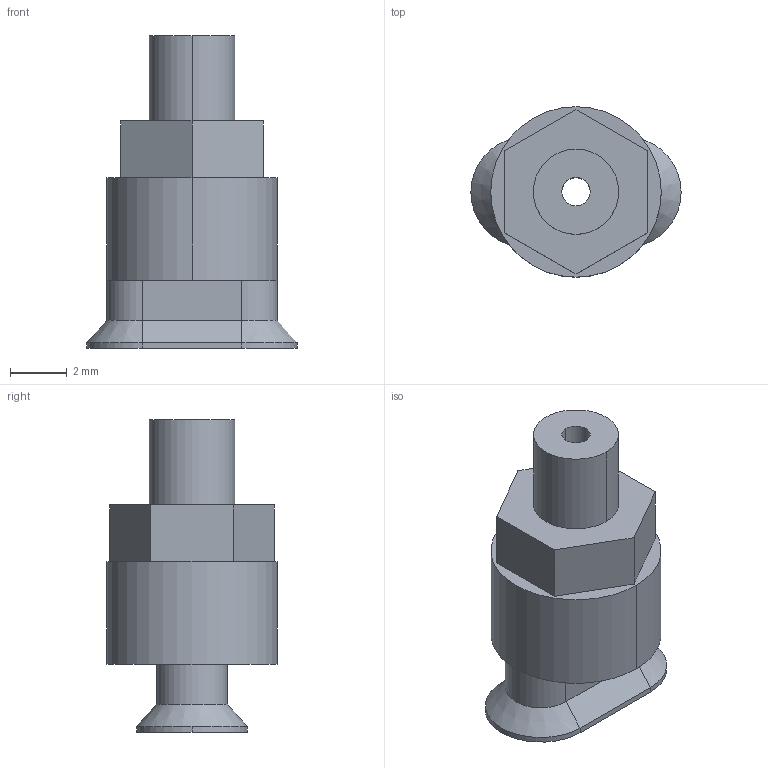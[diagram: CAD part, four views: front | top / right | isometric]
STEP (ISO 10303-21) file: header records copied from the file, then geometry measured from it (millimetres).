
FILE_DESCRIPTION(('STEP AP214'),'1');
FILE_NAME('10_01_05_00405.stp','2021-01-28T16:52:21',('TraceParts'),('TraceParts S.A.'),'Spatial InterOp 3D',' ',' ');
FILE_SCHEMA(('AUTOMOTIVE_DESIGN { 1 0 10303 214 1 1 1 1 }'));
Length unit declared in the file: millimetre
Products named in the file (1): 10_01_05_00405
Bounding box: 7.4 x 6 x 11 mm (x, y, z)
Volume: 185.8 mm3; surface area: 299.3 mm2
Topology: 1 solids, 2 shells, 52 faces, 120 edges, 76 vertices
Faces by surface type: plane 26, cylinder 22, cone 4
Entity records: 1925 total; most frequent: DIRECTION 276, CARTESIAN_POINT 249, ORIENTED_EDGE 240, EDGE_CURVE 120, AXIS2_PLACEMENT_3D 103, VERTEX_POINT 76, LINE 70, VECTOR 70
